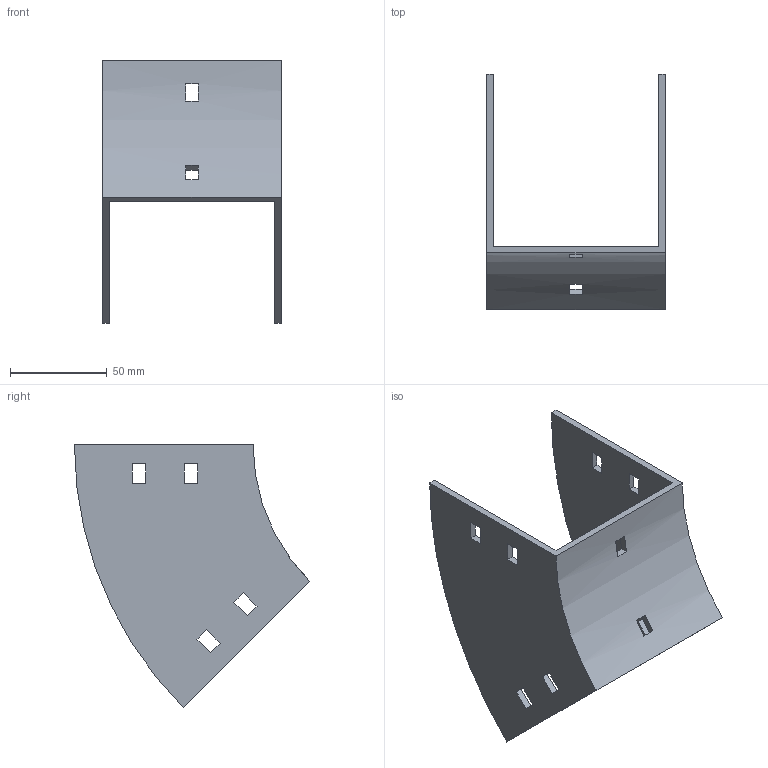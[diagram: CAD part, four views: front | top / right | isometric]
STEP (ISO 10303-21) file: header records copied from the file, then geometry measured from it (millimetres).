
FILE_DESCRIPTION (( 'STEP AP214' ), '1' );
FILE_NAME ('34B1I092.step', '2025-02-21T09:29:56', ( '' ), ( '' ), 'SwSTEP 2.0', 'SolidWorks 2023', '' );
FILE_SCHEMA (( 'AUTOMOTIVE_DESIGN' ));
Length unit declared in the file: millimetre
Products named in the file (1): 34B1I092
Bounding box: 92.5 x 121.79 x 136.12 mm (x, y, z)
Volume: 95914 mm3; surface area: 58922.2 mm2
Topology: 1 solids, 1 shells, 50 faces, 144 edges, 96 vertices
Faces by surface type: plane 46, cylinder 4
Entity records: 1687 total; most frequent: CARTESIAN_POINT 291, ORIENTED_EDGE 288, DIRECTION 262, EDGE_CURVE 144, VECTOR 128, LINE 128, VERTEX_POINT 96, EDGE_LOOP 70
